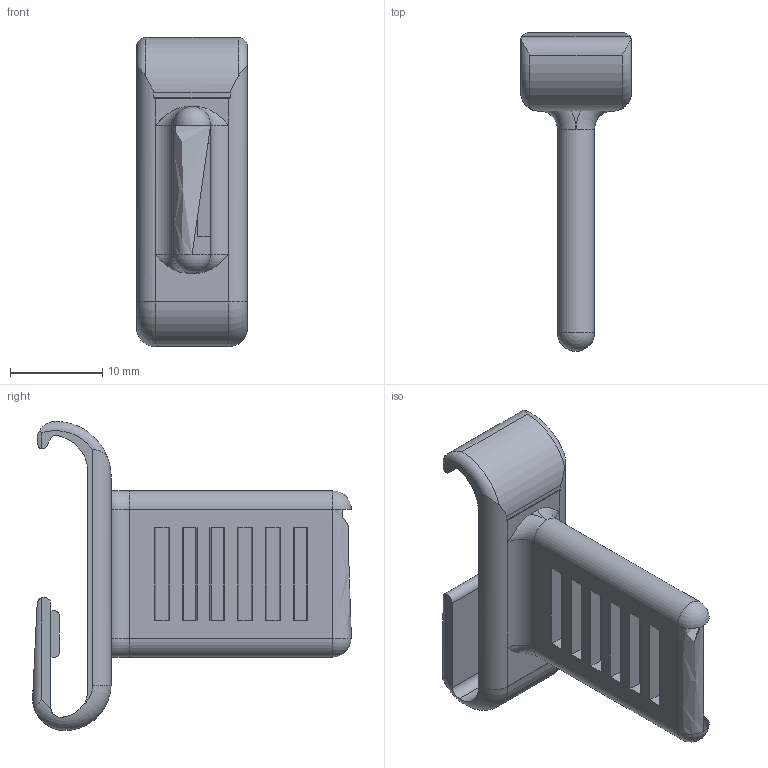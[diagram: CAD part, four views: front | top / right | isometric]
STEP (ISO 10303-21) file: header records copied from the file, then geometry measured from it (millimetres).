
FILE_DESCRIPTION((''),'2;1');
FILE_NAME('C:\Uebbing\PARAMETERKETTEN\KOLIBRI\Kol_40_062_2\Kol_40_062_2_PZ.stp','2011-11-02T12:52:21',('Uebbing'),(''),'Autodesk Inventor 10','Autodesk Inventor 10','');
FILE_SCHEMA(('AUTOMOTIVE_DESIGN { 1 0 10303 214 1 1 1 1 }'));
Length unit declared in the file: millimetre
Products named in the file (1): Kol_40_062_2_PZ
Bounding box: 12 x 34.49 x 33.44 mm (x, y, z)
Volume: 2641.1 mm3; surface area: 2799.1 mm2
Topology: 1 solids, 1 shells, 116 faces, 293 edges, 190 vertices
Faces by surface type: plane 80, cylinder 25, torus 8, sphere 2, bspline 1
Entity records: 3752 total; most frequent: CARTESIAN_POINT 988, ORIENTED_EDGE 582, DIRECTION 529, EDGE_CURVE 291, VECTOR 205, LINE 205, VERTEX_POINT 190, AXIS2_PLACEMENT_3D 162
